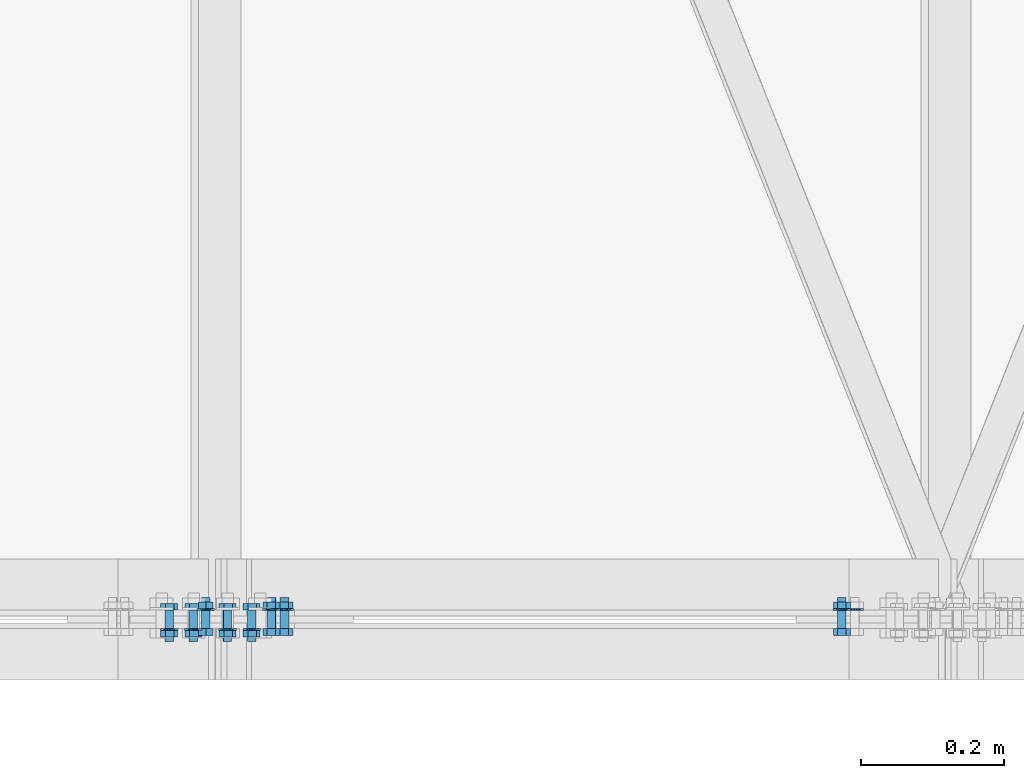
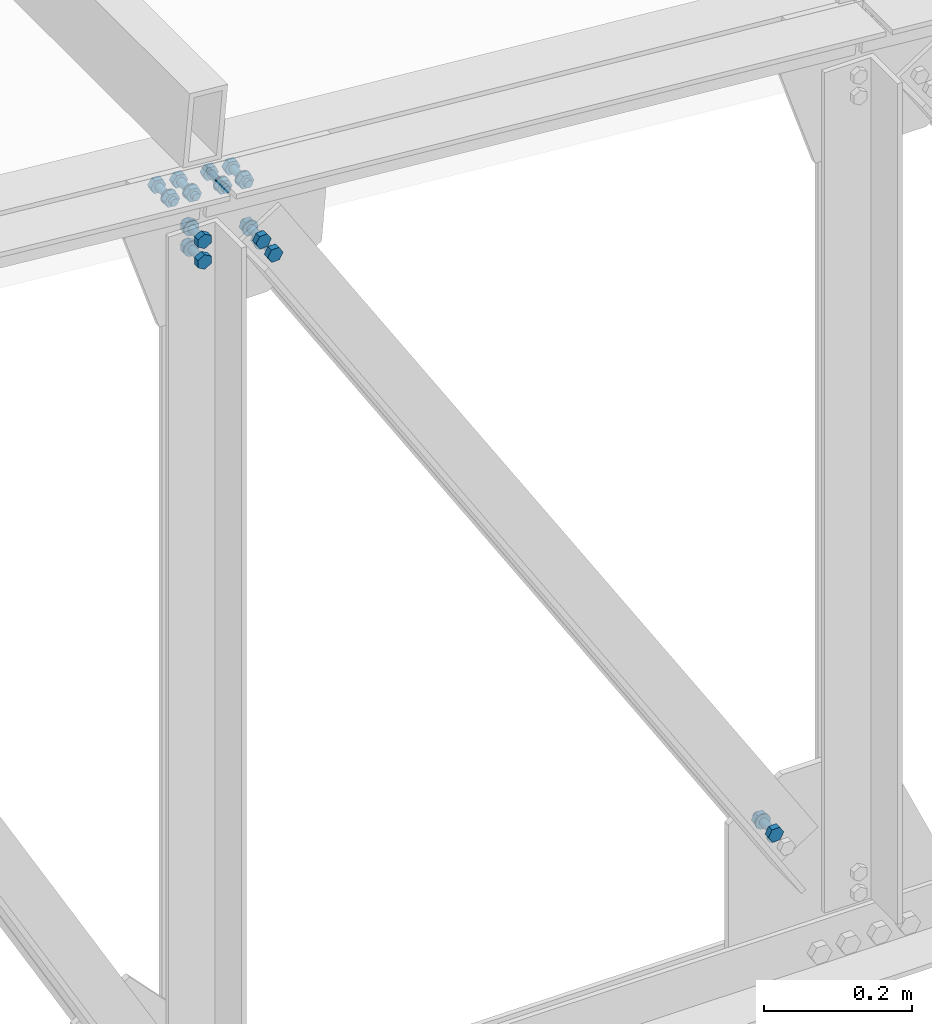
# One storey, part 69 of 251: 37 mechanical fasteners.
"""IFC4 building model written with IfcOpenShell, lengths in metres."""

from ifc_helpers import new_model, si_unit, frame, origin_with_axes, place, context, project, spatial, polyline, outline, extrude, type_object, element, save


model = new_model("IFC4")

# Units and contexts
model_context = context("Model", 3, precision=1e-05, world=origin_with_axes())
ifc_project = project(units=[si_unit("LENGTHUNIT", "METRE"), si_unit("AREAUNIT", "SQUARE_METRE"), si_unit("VOLUMEUNIT", "CUBIC_METRE"), si_unit("MASSUNIT", "GRAM", prefix="KILO"), si_unit("TIMEUNIT", "SECOND"), si_unit("PLANEANGLEUNIT", "RADIAN"), si_unit("SOLIDANGLEUNIT", "STERADIAN"), si_unit("THERMODYNAMICTEMPERATUREUNIT", "DEGREE_CELSIUS")], contexts=[model_context])

# Site, building, storey
placement_1 = place(None, origin_with_axes())
site = spatial("IfcSite", under=ifc_project, at=placement_1, Name="Italia", CompositionType="ELEMENT")
building = spatial("IfcBuilding", under=site, at=placement_1, Name="Deposito", CompositionType="ELEMENT")
storey = spatial("IfcBuildingStorey", under=building, at=placement_1, Name="Storey 0", CompositionType="ELEMENT", Elevation=0.0)

# Mechanical fasteners
mechanical_fastener_type_1 = type_object("IfcMechanicalFastenerType", Name="Reticolare 2", PredefinedType="BOLT")
placement_2 = place(placement_1, origin_with_axes())
mechanical_fastener_1_placement = place(placement_2, origin_with_axes())
element("IfcMechanicalFastener", 1, at=mechanical_fastener_1_placement, inside=storey, type_object=mechanical_fastener_type_1, Name="Reticolare 2", NominalDiameter=0.024, context=model_context, shape_type="SweptSolid", body=[
    extrude(outline(polyline([(0.0, 0.0), (-0.000409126, -0.00310564), (-0.00160789, -0.00600004), (-0.00351524, -0.00848532), (-0.00600052, -0.0103922), (-0.00889397, -0.011591), (-0.0120001, -0.0120001), (-0.0151062, -0.011591), (-0.0179996, -0.0103922), (-0.0204849, -0.00848532), (-0.0223923, -0.00600004), (-0.023591, -0.00310564), (-0.0240002, 0.0), (-0.023591, 0.00310564), (-0.0223923, 0.00600004), (-0.0204849, 0.00848532), (-0.0179996, 0.0103922), (-0.0151062, 0.011591), (-0.0120001, 0.0120001), (-0.00889397, 0.011591), (-0.00600052, 0.0103922), (-0.00351524, 0.00848532), (-0.00160789, 0.00600004), (-0.000409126, 0.00310564), (0.0, 0.0)])), frame((13.9145, 0.015, 5.20248), z_axis=(0.0, -1.0, 0.0), x_axis=(1.0, 0.0, 0.0)), (0.0, 0.0, 1.0), 0.002),
])
mechanical_fastener_type_2 = type_object("IfcMechanicalFastenerType", Name="Reticolare 2", PredefinedType="BOLT")
mechanical_fastener_2_placement = place(placement_2, origin_with_axes())
element("IfcMechanicalFastener", 2, at=mechanical_fastener_2_placement, inside=storey, type_object=mechanical_fastener_type_2, Name="Reticolare 2", NominalDiameter=0.0119994, context=model_context, shape_type="SweptSolid", body=[
    extrude(outline(polyline([(0.0, 0.0), (-0.00643444, 0.010129), (-0.000879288, 0.0207663), (0.0111094, 0.0212741), (0.0175438, 0.0111451), (0.0119896, 0.000508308), (0.0, 0.0)])), frame((13.8787, -0.013, 5.22054), z_axis=(0.0, -1.0, 0.0), x_axis=(1.0, 0.0, 0.0)), (0.0, 0.0, 1.0), 0.0096),
])
mechanical_fastener_type_3 = type_object("IfcMechanicalFastenerType", Name="Reticolare 2", PredefinedType="BOLT")
mechanical_fastener_3_placement = place(placement_2, origin_with_axes())
element("IfcMechanicalFastener", 3, at=mechanical_fastener_3_placement, inside=storey, type_object=mechanical_fastener_type_3, Name="Reticolare 2", NominalDiameter=0.012, context=model_context, shape_type="SweptSolid", body=[
    extrude(outline(polyline([(0.0, 0.0), (-0.000204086, -0.00155306), (-0.000802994, -0.00299978), (-0.00175667, -0.00424242), (-0.00299931, -0.00519609), (-0.00444698, -0.00579548), (-0.00599957, -0.00600004), (-0.00755215, -0.00579548), (-0.00899982, -0.00519609), (-0.0102425, -0.00424242), (-0.0111961, -0.00299978), (-0.011795, -0.00155306), (-0.0119991, 0.0), (-0.011795, 0.00155306), (-0.0111961, 0.00299978), (-0.0102425, 0.00424242), (-0.00899982, 0.00519609), (-0.00755215, 0.00579548), (-0.00599957, 0.00600004), (-0.00444698, 0.00579548), (-0.00299931, 0.00519609), (-0.00175667, 0.00424242), (-0.000802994, 0.00299978), (-0.000204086, 0.00155306), (0.0, 0.0)])), frame((13.8903, 0.031, 5.23117), z_axis=(0.0, -1.0, 0.0), x_axis=(1.0, 0.0, 0.0)), (0.0, 0.0, 1.0), 0.044),
])
mechanical_fastener_type_4 = type_object("IfcMechanicalFastenerType", Name="Reticolare 2", PredefinedType="BOLT")
mechanical_fastener_4_placement = place(placement_2, origin_with_axes())
element("IfcMechanicalFastener", 4, at=mechanical_fastener_4_placement, inside=storey, type_object=mechanical_fastener_type_4, Name="Reticolare 2", NominalDiameter=0.0119994, context=model_context, shape_type="SweptSolid", body=[
    extrude(outline(polyline([(0.0, 0.0), (-0.00643444, 0.010129), (-0.000879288, 0.0207663), (0.0111094, 0.0212741), (0.0175438, 0.0111451), (0.0119896, 0.000508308), (0.0, 0.0)])), frame((13.8787, 0.0246, 5.22054), z_axis=(0.0, -1.0, 0.0), x_axis=(1.0, 0.0, 0.0)), (0.0, 0.0, 1.0), 0.0096),
])
mechanical_fastener_type_5 = type_object("IfcMechanicalFastenerType", Name="Reticolare 2", PredefinedType="BOLT")
mechanical_fastener_5_placement = place(placement_2, origin_with_axes())
element("IfcMechanicalFastener", 5, at=mechanical_fastener_5_placement, inside=storey, type_object=mechanical_fastener_type_5, Name="Reticolare 2", NominalDiameter=0.024, context=model_context, shape_type="SweptSolid", body=[
    extrude(outline(polyline([(0.0, 0.0), (-0.000409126, -0.00310564), (-0.00160789, -0.00600004), (-0.00351524, -0.00848532), (-0.00600052, -0.0103922), (-0.00889397, -0.011591), (-0.0120001, -0.0120001), (-0.0151062, -0.011591), (-0.0179996, -0.0103922), (-0.0204849, -0.00848532), (-0.0223923, -0.00600004), (-0.023591, -0.00310564), (-0.0240002, 0.0), (-0.023591, 0.00310564), (-0.0223923, 0.00600004), (-0.0204849, 0.00848532), (-0.0179996, 0.0103922), (-0.0151062, 0.011591), (-0.0120001, 0.0120001), (-0.00889397, 0.011591), (-0.00600052, 0.0103922), (-0.00351524, 0.00848532), (-0.00160789, 0.00600004), (-0.000409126, 0.00310564), (0.0, 0.0)])), frame((13.8963, 0.015, 5.23117), z_axis=(0.0, -1.0, 0.0), x_axis=(1.0, 0.0, 0.0)), (0.0, 0.0, 1.0), 0.002),
])
mechanical_fastener_type_6 = type_object("IfcMechanicalFastenerType", Name="Reticolare 2", PredefinedType="BOLT")
mechanical_fastener_6_placement = place(placement_2, origin_with_axes())
element("IfcMechanicalFastener", 6, at=mechanical_fastener_6_placement, inside=storey, type_object=mechanical_fastener_type_6, Name="Reticolare 2", NominalDiameter=0.0119996, context=model_context, shape_type="SweptSolid", body=[
    extrude(outline(polyline([(0.0, 0.0), (0.0119572, 0.001019), (0.0188179, -0.00882626), (0.0137215, -0.0196905), (0.00176525, -0.0207095), (-0.00509548, -0.0108643), (0.0, 0.0)])), frame((13.0302, 0.013, 6.61092), z_axis=(0.0, 1.0, 0.0), x_axis=(-1.0, 0.0, 0.0)), (0.0, 0.0, 1.0), 0.0096),
])
mechanical_fastener_type_7 = type_object("IfcMechanicalFastenerType", Name="Reticolare 2", PredefinedType="BOLT")
mechanical_fastener_7_placement = place(placement_2, origin_with_axes())
element("IfcMechanicalFastener", 7, at=mechanical_fastener_7_placement, inside=storey, type_object=mechanical_fastener_type_7, Name="Reticolare 2", NominalDiameter=0.012, context=model_context, shape_type="SweptSolid", body=[
    extrude(outline(polyline([(0.0, 0.0), (-0.000204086, -0.00155306), (-0.000802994, -0.00299978), (-0.00175667, -0.00424242), (-0.00299931, -0.00519609), (-0.00444698, -0.00579548), (-0.00599957, -0.00600004), (-0.00755215, -0.00579548), (-0.00899982, -0.00519609), (-0.0102425, -0.00424242), (-0.0111961, -0.00299978), (-0.011795, -0.00155306), (-0.0119991, 0.0), (-0.011795, 0.00155306), (-0.0111961, 0.00299978), (-0.0102425, 0.00424242), (-0.00899982, 0.00519609), (-0.00755215, 0.00579548), (-0.00599957, 0.00600004), (-0.00444698, 0.00579548), (-0.00299931, 0.00519609), (-0.00175667, 0.00424242), (-0.000802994, 0.00299978), (-0.000204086, 0.00155306), (0.0, 0.0)])), frame((13.0173, -0.031, 6.60108), z_axis=(0.0, 1.0, 0.0), x_axis=(-1.0, 0.0, 0.0)), (0.0, 0.0, 1.0), 0.044),
])
mechanical_fastener_type_8 = type_object("IfcMechanicalFastenerType", Name="Reticolare 2", PredefinedType="BOLT")
mechanical_fastener_8_placement = place(placement_2, origin_with_axes())
element("IfcMechanicalFastener", 8, at=mechanical_fastener_8_placement, inside=storey, type_object=mechanical_fastener_type_8, Name="Reticolare 2", NominalDiameter=0.0119996, context=model_context, shape_type="SweptSolid", body=[
    extrude(outline(polyline([(0.0, 0.0), (0.0119572, 0.001019), (0.0188179, -0.00882626), (0.0137215, -0.0196905), (0.00176525, -0.0207095), (-0.00509548, -0.0108643), (0.0, 0.0)])), frame((13.0302, -0.0246, 6.61092), z_axis=(0.0, 1.0, 0.0), x_axis=(-1.0, 0.0, 0.0)), (0.0, 0.0, 1.0), 0.0096),
])
mechanical_fastener_type_9 = type_object("IfcMechanicalFastenerType", Name="Reticolare 2", PredefinedType="BOLT")
mechanical_fastener_9_placement = place(placement_2, origin_with_axes())
element("IfcMechanicalFastener", 9, at=mechanical_fastener_9_placement, inside=storey, type_object=mechanical_fastener_type_9, Name="Reticolare 2", NominalDiameter=0.024, context=model_context, shape_type="SweptSolid", body=[
    extrude(outline(polyline([(0.0, 0.0), (-0.000409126, -0.00310564), (-0.00160789, -0.00600004), (-0.00351524, -0.00848532), (-0.00600052, -0.0103922), (-0.00889397, -0.011591), (-0.0120001, -0.0120001), (-0.0151062, -0.011591), (-0.0179996, -0.0103922), (-0.0204849, -0.00848532), (-0.0223923, -0.00600004), (-0.023591, -0.00310564), (-0.0240002, 0.0), (-0.023591, 0.00310564), (-0.0223923, 0.00600004), (-0.0204849, 0.00848532), (-0.0179996, 0.0103922), (-0.0151062, 0.011591), (-0.0120001, 0.0120001), (-0.00889397, 0.011591), (-0.00600052, 0.0103922), (-0.00351524, 0.00848532), (-0.00160789, 0.00600004), (-0.000409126, 0.00310564), (0.0, 0.0)])), frame((13.0113, -0.015, 6.60108), z_axis=(0.0, 1.0, 0.0), x_axis=(-1.0, 0.0, 0.0)), (0.0, 0.0, 1.0), 0.002),
])
mechanical_fastener_type_10 = type_object("IfcMechanicalFastenerType", Name="Reticolare 2", PredefinedType="BOLT")
mechanical_fastener_10_placement = place(placement_2, origin_with_axes())
element("IfcMechanicalFastener", 10, at=mechanical_fastener_10_placement, inside=storey, type_object=mechanical_fastener_type_10, Name="Reticolare 2", NominalDiameter=0.0119996, context=model_context, shape_type="SweptSolid", body=[
    extrude(outline(polyline([(0.0, 0.0), (0.0119572, 0.001019), (0.0188179, -0.00882626), (0.0137215, -0.0196905), (0.00176525, -0.0207095), (-0.00509548, -0.0108643), (0.0, 0.0)])), frame((13.0641, 0.013, 6.60803), z_axis=(0.0, 1.0, 0.0), x_axis=(-1.0, 0.0, 0.0)), (0.0, 0.0, 1.0), 0.0096),
])
mechanical_fastener_type_11 = type_object("IfcMechanicalFastenerType", Name="Reticolare 2", PredefinedType="BOLT")
mechanical_fastener_11_placement = place(placement_2, origin_with_axes())
element("IfcMechanicalFastener", 11, at=mechanical_fastener_11_placement, inside=storey, type_object=mechanical_fastener_type_11, Name="Reticolare 2", NominalDiameter=0.012, context=model_context, shape_type="SweptSolid", body=[
    extrude(outline(polyline([(0.0, 0.0), (-0.000204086, -0.00155306), (-0.000802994, -0.00299978), (-0.00175667, -0.00424242), (-0.00299931, -0.00519609), (-0.00444698, -0.00579548), (-0.00599957, -0.00600004), (-0.00755215, -0.00579548), (-0.00899982, -0.00519609), (-0.0102425, -0.00424242), (-0.0111961, -0.00299978), (-0.011795, -0.00155306), (-0.0119991, 0.0), (-0.011795, 0.00155306), (-0.0111961, 0.00299978), (-0.0102425, 0.00424242), (-0.00899982, 0.00519609), (-0.00755215, 0.00579548), (-0.00599957, 0.00600004), (-0.00444698, 0.00579548), (-0.00299931, 0.00519609), (-0.00175667, 0.00424242), (-0.000802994, 0.00299978), (-0.000204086, 0.00155306), (0.0, 0.0)])), frame((13.0512, -0.031, 6.59819), z_axis=(0.0, 1.0, 0.0), x_axis=(-1.0, 0.0, 0.0)), (0.0, 0.0, 1.0), 0.044),
])
mechanical_fastener_type_12 = type_object("IfcMechanicalFastenerType", Name="Reticolare 2", PredefinedType="BOLT")
mechanical_fastener_12_placement = place(placement_2, origin_with_axes())
element("IfcMechanicalFastener", 12, at=mechanical_fastener_12_placement, inside=storey, type_object=mechanical_fastener_type_12, Name="Reticolare 2", NominalDiameter=0.0119996, context=model_context, shape_type="SweptSolid", body=[
    extrude(outline(polyline([(0.0, 0.0), (0.0119572, 0.001019), (0.0188179, -0.00882626), (0.0137215, -0.0196905), (0.00176525, -0.0207095), (-0.00509548, -0.0108643), (0.0, 0.0)])), frame((13.0641, -0.0246, 6.60803), z_axis=(0.0, 1.0, 0.0), x_axis=(-1.0, 0.0, 0.0)), (0.0, 0.0, 1.0), 0.0096),
])
mechanical_fastener_type_13 = type_object("IfcMechanicalFastenerType", Name="Reticolare 2", PredefinedType="BOLT")
mechanical_fastener_13_placement = place(placement_2, origin_with_axes())
element("IfcMechanicalFastener", 13, at=mechanical_fastener_13_placement, inside=storey, type_object=mechanical_fastener_type_13, Name="Reticolare 2", NominalDiameter=0.024, context=model_context, shape_type="SweptSolid", body=[
    extrude(outline(polyline([(0.0, 0.0), (-0.000409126, -0.00310564), (-0.00160789, -0.00600004), (-0.00351524, -0.00848532), (-0.00600052, -0.0103922), (-0.00889397, -0.011591), (-0.0120001, -0.0120001), (-0.0151062, -0.011591), (-0.0179996, -0.0103922), (-0.0204849, -0.00848532), (-0.0223923, -0.00600004), (-0.023591, -0.00310564), (-0.0240002, 0.0), (-0.023591, 0.00310564), (-0.0223923, 0.00600004), (-0.0204849, 0.00848532), (-0.0179996, 0.0103922), (-0.0151062, 0.011591), (-0.0120001, 0.0120001), (-0.00889397, 0.011591), (-0.00600052, 0.0103922), (-0.00351524, 0.00848532), (-0.00160789, 0.00600004), (-0.000409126, 0.00310564), (0.0, 0.0)])), frame((13.0452, -0.015, 6.59819), z_axis=(0.0, 1.0, 0.0), x_axis=(-1.0, 0.0, 0.0)), (0.0, 0.0, 1.0), 0.002),
])
mechanical_fastener_type_14 = type_object("IfcMechanicalFastenerType", Name="Reticolare 2", PredefinedType="BOLT")
mechanical_fastener_14_placement = place(placement_2, origin_with_axes())
element("IfcMechanicalFastener", 14, at=mechanical_fastener_14_placement, inside=storey, type_object=mechanical_fastener_type_14, Name="Reticolare 2", NominalDiameter=0.0119996, context=model_context, shape_type="SweptSolid", body=[
    extrude(outline(polyline([(0.0, 0.0), (0.0119524, 0.00107431), (0.018858, -0.00873947), (0.013813, -0.0196271), (0.00186157, -0.0207014), (-0.00504494, -0.0108881), (0.0, 0.0)])), frame((12.9824, 0.013, 6.61508), z_axis=(0.0, 1.0, 0.0), x_axis=(-1.0, 0.0, 0.0)), (0.0, 0.0, 1.0), 0.0096),
])
mechanical_fastener_type_15 = type_object("IfcMechanicalFastenerType", Name="Reticolare 2", PredefinedType="BOLT")
mechanical_fastener_15_placement = place(placement_2, origin_with_axes())
element("IfcMechanicalFastener", 15, at=mechanical_fastener_15_placement, inside=storey, type_object=mechanical_fastener_type_15, Name="Reticolare 2", NominalDiameter=0.012, context=model_context, shape_type="SweptSolid", body=[
    extrude(outline(polyline([(0.0, 0.0), (-0.000204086, -0.00155306), (-0.000802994, -0.00299978), (-0.00175667, -0.00424242), (-0.00299931, -0.00519609), (-0.00444698, -0.00579548), (-0.00599957, -0.00600004), (-0.00755215, -0.00579548), (-0.00899982, -0.00519609), (-0.0102425, -0.00424242), (-0.0111961, -0.00299978), (-0.011795, -0.00155306), (-0.0119991, 0.0), (-0.011795, 0.00155306), (-0.0111961, 0.00299978), (-0.0102425, 0.00424242), (-0.00899982, 0.00519609), (-0.00755215, 0.00579548), (-0.00599957, 0.00600004), (-0.00444698, 0.00579548), (-0.00299931, 0.00519609), (-0.00175667, 0.00424242), (-0.000802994, 0.00299978), (-0.000204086, 0.00155306), (0.0, 0.0)])), frame((12.9694, -0.031, 6.60527), z_axis=(0.0, 1.0, 0.0), x_axis=(-1.0, 0.0, 0.0)), (0.0, 0.0, 1.0), 0.044),
])
mechanical_fastener_type_16 = type_object("IfcMechanicalFastenerType", Name="Reticolare 2", PredefinedType="BOLT")
mechanical_fastener_16_placement = place(placement_2, origin_with_axes())
element("IfcMechanicalFastener", 16, at=mechanical_fastener_16_placement, inside=storey, type_object=mechanical_fastener_type_16, Name="Reticolare 2", NominalDiameter=0.0119996, context=model_context, shape_type="SweptSolid", body=[
    extrude(outline(polyline([(0.0, 0.0), (0.0119524, 0.00107431), (0.018858, -0.00873947), (0.013813, -0.0196271), (0.00186157, -0.0207014), (-0.00504494, -0.0108881), (0.0, 0.0)])), frame((12.9824, -0.0246, 6.61508), z_axis=(0.0, 1.0, 0.0), x_axis=(-1.0, 0.0, 0.0)), (0.0, 0.0, 1.0), 0.0096),
])
mechanical_fastener_type_17 = type_object("IfcMechanicalFastenerType", Name="Reticolare 2", PredefinedType="BOLT")
mechanical_fastener_17_placement = place(placement_2, origin_with_axes())
element("IfcMechanicalFastener", 17, at=mechanical_fastener_17_placement, inside=storey, type_object=mechanical_fastener_type_17, Name="Reticolare 2", NominalDiameter=0.024, context=model_context, shape_type="SweptSolid", body=[
    extrude(outline(polyline([(0.0, 0.0), (-0.000409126, -0.00310564), (-0.00160789, -0.00600004), (-0.00351524, -0.00848532), (-0.00600052, -0.0103922), (-0.00889397, -0.011591), (-0.0120001, -0.0120001), (-0.0151062, -0.011591), (-0.0179996, -0.0103922), (-0.0204849, -0.00848532), (-0.0223923, -0.00600004), (-0.023591, -0.00310564), (-0.0240002, 0.0), (-0.023591, 0.00310564), (-0.0223923, 0.00600004), (-0.0204849, 0.00848532), (-0.0179996, 0.0103922), (-0.0151062, 0.011591), (-0.0120001, 0.0120001), (-0.00889397, 0.011591), (-0.00600052, 0.0103922), (-0.00351524, 0.00848532), (-0.00160789, 0.00600004), (-0.000409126, 0.00310564), (0.0, 0.0)])), frame((12.9634, -0.015, 6.60527), z_axis=(0.0, 1.0, 0.0), x_axis=(-1.0, 0.0, 0.0)), (0.0, 0.0, 1.0), 0.002),
])
mechanical_fastener_type_18 = type_object("IfcMechanicalFastenerType", Name="Reticolare 2", PredefinedType="BOLT")
mechanical_fastener_18_placement = place(placement_2, origin_with_axes())
element("IfcMechanicalFastener", 18, at=mechanical_fastener_18_placement, inside=storey, type_object=mechanical_fastener_type_18, Name="Reticolare 2", NominalDiameter=0.0119996, context=model_context, shape_type="SweptSolid", body=[
    extrude(outline(polyline([(0.0, 0.0), (0.0119514, 0.00107479), (0.018858, -0.00873899), (0.0138121, -0.0196266), (0.00186062, -0.0207009), (-0.00504589, -0.0108876), (0.0, 0.0)])), frame((12.9485, 0.013, 6.61813), z_axis=(0.0, 1.0, 0.0), x_axis=(-1.0, 0.0, 0.0)), (0.0, 0.0, 1.0), 0.0096),
])
mechanical_fastener_type_19 = type_object("IfcMechanicalFastenerType", Name="Reticolare 2", PredefinedType="BOLT")
mechanical_fastener_19_placement = place(placement_2, origin_with_axes())
element("IfcMechanicalFastener", 19, at=mechanical_fastener_19_placement, inside=storey, type_object=mechanical_fastener_type_19, Name="Reticolare 2", NominalDiameter=0.012, context=model_context, shape_type="SweptSolid", body=[
    extrude(outline(polyline([(0.0, 0.0), (-0.000204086, -0.00155306), (-0.000802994, -0.00299978), (-0.00175667, -0.00424242), (-0.00299931, -0.00519609), (-0.00444698, -0.00579548), (-0.00599957, -0.00600004), (-0.00755215, -0.00579548), (-0.00899982, -0.00519609), (-0.0102425, -0.00424242), (-0.0111961, -0.00299978), (-0.011795, -0.00155306), (-0.0119991, 0.0), (-0.011795, 0.00155306), (-0.0111961, 0.00299978), (-0.0102425, 0.00424242), (-0.00899982, 0.00519609), (-0.00755215, 0.00579548), (-0.00599957, 0.00600004), (-0.00444698, 0.00579548), (-0.00299931, 0.00519609), (-0.00175667, 0.00424242), (-0.000802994, 0.00299978), (-0.000204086, 0.00155306), (0.0, 0.0)])), frame((12.9356, -0.031, 6.60831), z_axis=(0.0, 1.0, 0.0), x_axis=(-1.0, 0.0, 0.0)), (0.0, 0.0, 1.0), 0.044),
])
mechanical_fastener_type_20 = type_object("IfcMechanicalFastenerType", Name="Reticolare 2", PredefinedType="BOLT")
mechanical_fastener_20_placement = place(placement_2, origin_with_axes())
element("IfcMechanicalFastener", 20, at=mechanical_fastener_20_placement, inside=storey, type_object=mechanical_fastener_type_20, Name="Reticolare 2", NominalDiameter=0.0119996, context=model_context, shape_type="SweptSolid", body=[
    extrude(outline(polyline([(0.0, 0.0), (0.0119514, 0.00107479), (0.018858, -0.00873899), (0.0138121, -0.0196266), (0.00186062, -0.0207009), (-0.00504589, -0.0108876), (0.0, 0.0)])), frame((12.9485, -0.0246, 6.61813), z_axis=(0.0, 1.0, 0.0), x_axis=(-1.0, 0.0, 0.0)), (0.0, 0.0, 1.0), 0.0096),
])
mechanical_fastener_type_21 = type_object("IfcMechanicalFastenerType", Name="Reticolare 2", PredefinedType="BOLT")
mechanical_fastener_21_placement = place(placement_2, origin_with_axes())
element("IfcMechanicalFastener", 21, at=mechanical_fastener_21_placement, inside=storey, type_object=mechanical_fastener_type_21, Name="Reticolare 2", NominalDiameter=0.024, context=model_context, shape_type="SweptSolid", body=[
    extrude(outline(polyline([(0.0, 0.0), (-0.000409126, -0.00310564), (-0.00160789, -0.00600004), (-0.00351524, -0.00848532), (-0.00600052, -0.0103922), (-0.00889397, -0.011591), (-0.0120001, -0.0120001), (-0.0151062, -0.011591), (-0.0179996, -0.0103922), (-0.0204849, -0.00848532), (-0.0223923, -0.00600004), (-0.023591, -0.00310564), (-0.0240002, 0.0), (-0.023591, 0.00310564), (-0.0223923, 0.00600004), (-0.0204849, 0.00848532), (-0.0179996, 0.0103922), (-0.0151062, 0.011591), (-0.0120001, 0.0120001), (-0.00889397, 0.011591), (-0.00600052, 0.0103922), (-0.00351524, 0.00848532), (-0.00160789, 0.00600004), (-0.000409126, 0.00310564), (0.0, 0.0)])), frame((12.9296, -0.015, 6.60831), z_axis=(0.0, 1.0, 0.0), x_axis=(-1.0, 0.0, 0.0)), (0.0, 0.0, 1.0), 0.002),
])
mechanical_fastener_type_22 = type_object("IfcMechanicalFastenerType", Name="Reticolare 2", PredefinedType="BOLT")
mechanical_fastener_22_placement = place(placement_2, origin_with_axes())
element("IfcMechanicalFastener", 22, at=mechanical_fastener_22_placement, inside=storey, type_object=mechanical_fastener_type_22, Name="Reticolare 2", NominalDiameter=0.0119999, context=model_context, shape_type="SweptSolid", body=[
    extrude(outline(polyline([(0.0, 0.0), (0.0, -0.0120001), (-0.0103922, -0.0180001), (-0.0207844, -0.0120001), (-0.0207844, 0.0), (-0.0103922, 0.00600004), (0.0, 0.0)])), frame((13.0034, -0.013, 6.52739), z_axis=(0.0, -1.0, 0.0), x_axis=(1.0, 0.0, 0.0)), (0.0, 0.0, 1.0), 0.0096),
])
mechanical_fastener_type_23 = type_object("IfcMechanicalFastenerType", Name="Reticolare 2", PredefinedType="BOLT")
mechanical_fastener_23_placement = place(placement_2, origin_with_axes())
element("IfcMechanicalFastener", 23, at=mechanical_fastener_23_placement, inside=storey, type_object=mechanical_fastener_type_23, Name="Reticolare 2", NominalDiameter=0.012, context=model_context, shape_type="SweptSolid", body=[
    extrude(outline(polyline([(0.0, 0.0), (-0.000204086, -0.00155306), (-0.000802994, -0.00299978), (-0.00175667, -0.00424242), (-0.00299931, -0.00519609), (-0.00444698, -0.00579548), (-0.00599957, -0.00600004), (-0.00755215, -0.00579548), (-0.00899982, -0.00519609), (-0.0102425, -0.00424242), (-0.0111961, -0.00299978), (-0.011795, -0.00155306), (-0.0119991, 0.0), (-0.011795, 0.00155306), (-0.0111961, 0.00299978), (-0.0102425, 0.00424242), (-0.00899982, 0.00519609), (-0.00755215, 0.00579548), (-0.00599957, 0.00600004), (-0.00444698, 0.00579548), (-0.00299931, 0.00519609), (-0.00175667, 0.00424242), (-0.000802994, 0.00299978), (-0.000204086, 0.00155306), (0.0, 0.0)])), frame((12.999, 0.031, 6.52139), z_axis=(0.0, -1.0, 0.0), x_axis=(1.0, 0.0, 0.0)), (0.0, 0.0, 1.0), 0.044),
])
mechanical_fastener_type_24 = type_object("IfcMechanicalFastenerType", Name="Reticolare 2", PredefinedType="BOLT")
mechanical_fastener_24_placement = place(placement_2, origin_with_axes())
element("IfcMechanicalFastener", 24, at=mechanical_fastener_24_placement, inside=storey, type_object=mechanical_fastener_type_24, Name="Reticolare 2", NominalDiameter=0.0119999, context=model_context, shape_type="SweptSolid", body=[
    extrude(outline(polyline([(0.0, 0.0), (0.0, -0.0120001), (-0.0103922, -0.0180001), (-0.0207844, -0.0120001), (-0.0207844, 0.0), (-0.0103922, 0.00600004), (0.0, 0.0)])), frame((13.0034, 0.0246, 6.52739), z_axis=(0.0, -1.0, 0.0), x_axis=(1.0, 0.0, 0.0)), (0.0, 0.0, 1.0), 0.0096),
])
mechanical_fastener_type_25 = type_object("IfcMechanicalFastenerType", Name="Reticolare 2", PredefinedType="BOLT")
mechanical_fastener_25_placement = place(placement_2, origin_with_axes())
element("IfcMechanicalFastener", 25, at=mechanical_fastener_25_placement, inside=storey, type_object=mechanical_fastener_type_25, Name="Reticolare 2", NominalDiameter=0.024, context=model_context, shape_type="SweptSolid", body=[
    extrude(outline(polyline([(0.0, 0.0), (-0.000409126, -0.00310564), (-0.00160789, -0.00600004), (-0.00351524, -0.00848532), (-0.00600052, -0.0103922), (-0.00889397, -0.011591), (-0.0120001, -0.0120001), (-0.0151062, -0.011591), (-0.0179996, -0.0103922), (-0.0204849, -0.00848532), (-0.0223923, -0.00600004), (-0.023591, -0.00310564), (-0.0240002, 0.0), (-0.023591, 0.00310564), (-0.0223923, 0.00600004), (-0.0204849, 0.00848532), (-0.0179996, 0.0103922), (-0.0151062, 0.011591), (-0.0120001, 0.0120001), (-0.00889397, 0.011591), (-0.00600052, 0.0103922), (-0.00351524, 0.00848532), (-0.00160789, 0.00600004), (-0.000409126, 0.00310564), (0.0, 0.0)])), frame((13.005, 0.015, 6.52139), z_axis=(0.0, -1.0, 0.0), x_axis=(1.0, 0.0, 0.0)), (0.0, 0.0, 1.0), 0.002),
])
mechanical_fastener_type_26 = type_object("IfcMechanicalFastenerType", Name="Reticolare 2", PredefinedType="BOLT")
mechanical_fastener_26_placement = place(placement_2, origin_with_axes())
element("IfcMechanicalFastener", 26, at=mechanical_fastener_26_placement, inside=storey, type_object=mechanical_fastener_type_26, Name="Reticolare 2", NominalDiameter=0.0119999, context=model_context, shape_type="SweptSolid", body=[
    extrude(outline(polyline([(0.0, 0.0), (0.0, -0.0120001), (-0.0103922, -0.0180001), (-0.0207844, -0.0120001), (-0.0207844, 0.0), (-0.0103922, 0.00600004), (0.0, 0.0)])), frame((13.0034, -0.013, 6.49339), z_axis=(0.0, -1.0, 0.0), x_axis=(1.0, 0.0, 0.0)), (0.0, 0.0, 1.0), 0.0096),
])
mechanical_fastener_type_27 = type_object("IfcMechanicalFastenerType", Name="Reticolare 2", PredefinedType="BOLT")
mechanical_fastener_27_placement = place(placement_2, origin_with_axes())
element("IfcMechanicalFastener", 27, at=mechanical_fastener_27_placement, inside=storey, type_object=mechanical_fastener_type_27, Name="Reticolare 2", NominalDiameter=0.012, context=model_context, shape_type="SweptSolid", body=[
    extrude(outline(polyline([(0.0, 0.0), (-0.000204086, -0.00155306), (-0.000802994, -0.00299978), (-0.00175667, -0.00424242), (-0.00299931, -0.00519609), (-0.00444698, -0.00579548), (-0.00599957, -0.00600004), (-0.00755215, -0.00579548), (-0.00899982, -0.00519609), (-0.0102425, -0.00424242), (-0.0111961, -0.00299978), (-0.011795, -0.00155306), (-0.0119991, 0.0), (-0.011795, 0.00155306), (-0.0111961, 0.00299978), (-0.0102425, 0.00424242), (-0.00899982, 0.00519609), (-0.00755215, 0.00579548), (-0.00599957, 0.00600004), (-0.00444698, 0.00579548), (-0.00299931, 0.00519609), (-0.00175667, 0.00424242), (-0.000802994, 0.00299978), (-0.000204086, 0.00155306), (0.0, 0.0)])), frame((12.999, 0.031, 6.48739), z_axis=(0.0, -1.0, 0.0), x_axis=(1.0, 0.0, 0.0)), (0.0, 0.0, 1.0), 0.044),
])
mechanical_fastener_type_28 = type_object("IfcMechanicalFastenerType", Name="Reticolare 2", PredefinedType="BOLT")
mechanical_fastener_28_placement = place(placement_2, origin_with_axes())
element("IfcMechanicalFastener", 28, at=mechanical_fastener_28_placement, inside=storey, type_object=mechanical_fastener_type_28, Name="Reticolare 2", NominalDiameter=0.0119999, context=model_context, shape_type="SweptSolid", body=[
    extrude(outline(polyline([(0.0, 0.0), (0.0, -0.0120001), (-0.0103922, -0.0180001), (-0.0207844, -0.0120001), (-0.0207844, 0.0), (-0.0103922, 0.00600004), (0.0, 0.0)])), frame((13.0034, 0.0246, 6.49339), z_axis=(0.0, -1.0, 0.0), x_axis=(1.0, 0.0, 0.0)), (0.0, 0.0, 1.0), 0.0096),
])
mechanical_fastener_type_29 = type_object("IfcMechanicalFastenerType", Name="Reticolare 2", PredefinedType="BOLT")
mechanical_fastener_29_placement = place(placement_2, origin_with_axes())
element("IfcMechanicalFastener", 29, at=mechanical_fastener_29_placement, inside=storey, type_object=mechanical_fastener_type_29, Name="Reticolare 2", NominalDiameter=0.024, context=model_context, shape_type="SweptSolid", body=[
    extrude(outline(polyline([(0.0, 0.0), (-0.000409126, -0.00310564), (-0.00160789, -0.00600004), (-0.00351524, -0.00848532), (-0.00600052, -0.0103922), (-0.00889397, -0.011591), (-0.0120001, -0.0120001), (-0.0151062, -0.011591), (-0.0179996, -0.0103922), (-0.0204849, -0.00848532), (-0.0223923, -0.00600004), (-0.023591, -0.00310564), (-0.0240002, 0.0), (-0.023591, 0.00310564), (-0.0223923, 0.00600004), (-0.0204849, 0.00848532), (-0.0179996, 0.0103922), (-0.0151062, 0.011591), (-0.0120001, 0.0120001), (-0.00889397, 0.011591), (-0.00600052, 0.0103922), (-0.00351524, 0.00848532), (-0.00160789, 0.00600004), (-0.000409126, 0.00310564), (0.0, 0.0)])), frame((13.005, 0.015, 6.48739), z_axis=(0.0, -1.0, 0.0), x_axis=(1.0, 0.0, 0.0)), (0.0, 0.0, 1.0), 0.002),
])
mechanical_fastener_type_30 = type_object("IfcMechanicalFastenerType", Name="Reticolare 2", PredefinedType="BOLT")
mechanical_fastener_30_placement = place(placement_2, origin_with_axes())
element("IfcMechanicalFastener", 30, at=mechanical_fastener_30_placement, inside=storey, type_object=mechanical_fastener_type_30, Name="Reticolare 2", NominalDiameter=0.0119996, context=model_context, shape_type="SweptSolid", body=[
    extrude(outline(polyline([(0.0, 0.0), (-0.00643444, 0.010129), (-0.000880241, 0.0207658), (0.0111094, 0.0212741), (0.0175438, 0.0111451), (0.0119896, 0.000507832), (0.0, 0.0)])), frame((13.0795, -0.013, 6.47855), z_axis=(0.0, -1.0, 0.0), x_axis=(1.0, 0.0, 0.0)), (0.0, 0.0, 1.0), 0.0096),
])
mechanical_fastener_type_31 = type_object("IfcMechanicalFastenerType", Name="Reticolare 2", PredefinedType="BOLT")
mechanical_fastener_31_placement = place(placement_2, origin_with_axes())
element("IfcMechanicalFastener", 31, at=mechanical_fastener_31_placement, inside=storey, type_object=mechanical_fastener_type_31, Name="Reticolare 2", NominalDiameter=0.012, context=model_context, shape_type="SweptSolid", body=[
    extrude(outline(polyline([(0.0, 0.0), (-0.000204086, -0.00155306), (-0.000802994, -0.00299978), (-0.00175667, -0.00424242), (-0.00299931, -0.00519609), (-0.00444698, -0.00579548), (-0.00599957, -0.00600004), (-0.00755215, -0.00579548), (-0.00899982, -0.00519609), (-0.0102425, -0.00424242), (-0.0111961, -0.00299978), (-0.011795, -0.00155306), (-0.0119991, 0.0), (-0.011795, 0.00155306), (-0.0111961, 0.00299978), (-0.0102425, 0.00424242), (-0.00899982, 0.00519609), (-0.00755215, 0.00579548), (-0.00599957, 0.00600004), (-0.00444698, 0.00579548), (-0.00299931, 0.00519609), (-0.00175667, 0.00424242), (-0.000802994, 0.00299978), (-0.000204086, 0.00155306), (0.0, 0.0)])), frame((13.0911, 0.031, 6.48919), z_axis=(0.0, -1.0, 0.0), x_axis=(1.0, 0.0, 0.0)), (0.0, 0.0, 1.0), 0.044),
])
mechanical_fastener_type_32 = type_object("IfcMechanicalFastenerType", Name="Reticolare 2", PredefinedType="BOLT")
mechanical_fastener_32_placement = place(placement_2, origin_with_axes())
element("IfcMechanicalFastener", 32, at=mechanical_fastener_32_placement, inside=storey, type_object=mechanical_fastener_type_32, Name="Reticolare 2", NominalDiameter=0.0119996, context=model_context, shape_type="SweptSolid", body=[
    extrude(outline(polyline([(0.0, 0.0), (-0.00643444, 0.010129), (-0.000880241, 0.0207658), (0.0111094, 0.0212741), (0.0175438, 0.0111451), (0.0119896, 0.000507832), (0.0, 0.0)])), frame((13.0795, 0.0246, 6.47855), z_axis=(0.0, -1.0, 0.0), x_axis=(1.0, 0.0, 0.0)), (0.0, 0.0, 1.0), 0.0096),
])
mechanical_fastener_type_33 = type_object("IfcMechanicalFastenerType", Name="Reticolare 2", PredefinedType="BOLT")
mechanical_fastener_33_placement = place(placement_2, origin_with_axes())
element("IfcMechanicalFastener", 33, at=mechanical_fastener_33_placement, inside=storey, type_object=mechanical_fastener_type_33, Name="Reticolare 2", NominalDiameter=0.024, context=model_context, shape_type="SweptSolid", body=[
    extrude(outline(polyline([(0.0, 0.0), (-0.000409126, -0.00310564), (-0.00160789, -0.00600004), (-0.00351524, -0.00848532), (-0.00600052, -0.0103922), (-0.00889397, -0.011591), (-0.0120001, -0.0120001), (-0.0151062, -0.011591), (-0.0179996, -0.0103922), (-0.0204849, -0.00848532), (-0.0223923, -0.00600004), (-0.023591, -0.00310564), (-0.0240002, 0.0), (-0.023591, 0.00310564), (-0.0223923, 0.00600004), (-0.0204849, 0.00848532), (-0.0179996, 0.0103922), (-0.0151062, 0.011591), (-0.0120001, 0.0120001), (-0.00889397, 0.011591), (-0.00600052, 0.0103922), (-0.00351524, 0.00848532), (-0.00160789, 0.00600004), (-0.000409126, 0.00310564), (0.0, 0.0)])), frame((13.0971, 0.015, 6.48919), z_axis=(0.0, -1.0, 0.0), x_axis=(1.0, 0.0, 0.0)), (0.0, 0.0, 1.0), 0.002),
])
mechanical_fastener_type_34 = type_object("IfcMechanicalFastenerType", Name="Reticolare 2", PredefinedType="BOLT")
mechanical_fastener_34_placement = place(placement_2, origin_with_axes())
element("IfcMechanicalFastener", 34, at=mechanical_fastener_34_placement, inside=storey, type_object=mechanical_fastener_type_34, Name="Reticolare 2", NominalDiameter=0.0119996, context=model_context, shape_type="SweptSolid", body=[
    extrude(outline(polyline([(0.0, 0.0), (-0.00643444, 0.010129), (-0.000880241, 0.0207663), (0.0111094, 0.0212741), (0.0175438, 0.0111451), (0.0119896, 0.000508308), (0.0, 0.0)])), frame((13.0978, -0.013, 6.44985), z_axis=(0.0, -1.0, 0.0), x_axis=(1.0, 0.0, 0.0)), (0.0, 0.0, 1.0), 0.0096),
])
mechanical_fastener_type_35 = type_object("IfcMechanicalFastenerType", Name="Reticolare 2", PredefinedType="BOLT")
mechanical_fastener_35_placement = place(placement_2, origin_with_axes())
element("IfcMechanicalFastener", 35, at=mechanical_fastener_35_placement, inside=storey, type_object=mechanical_fastener_type_35, Name="Reticolare 2", NominalDiameter=0.012, context=model_context, shape_type="SweptSolid", body=[
    extrude(outline(polyline([(0.0, 0.0), (-0.000204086, -0.00155306), (-0.000802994, -0.00299978), (-0.00175667, -0.00424242), (-0.00299931, -0.00519609), (-0.00444698, -0.00579548), (-0.00599957, -0.00600004), (-0.00755215, -0.00579548), (-0.00899982, -0.00519609), (-0.0102425, -0.00424242), (-0.0111961, -0.00299978), (-0.011795, -0.00155306), (-0.0119991, 0.0), (-0.011795, 0.00155306), (-0.0111961, 0.00299978), (-0.0102425, 0.00424242), (-0.00899982, 0.00519609), (-0.00755215, 0.00579548), (-0.00599957, 0.00600004), (-0.00444698, 0.00579548), (-0.00299931, 0.00519609), (-0.00175667, 0.00424242), (-0.000802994, 0.00299978), (-0.000204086, 0.00155306), (0.0, 0.0)])), frame((13.1093, 0.031, 6.46049), z_axis=(0.0, -1.0, 0.0), x_axis=(1.0, 0.0, 0.0)), (0.0, 0.0, 1.0), 0.044),
])
mechanical_fastener_type_36 = type_object("IfcMechanicalFastenerType", Name="Reticolare 2", PredefinedType="BOLT")
mechanical_fastener_36_placement = place(placement_2, origin_with_axes())
element("IfcMechanicalFastener", 36, at=mechanical_fastener_36_placement, inside=storey, type_object=mechanical_fastener_type_36, Name="Reticolare 2", NominalDiameter=0.0119996, context=model_context, shape_type="SweptSolid", body=[
    extrude(outline(polyline([(0.0, 0.0), (-0.00643444, 0.010129), (-0.000880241, 0.0207663), (0.0111094, 0.0212741), (0.0175438, 0.0111451), (0.0119896, 0.000508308), (0.0, 0.0)])), frame((13.0978, 0.0246, 6.44985), z_axis=(0.0, -1.0, 0.0), x_axis=(1.0, 0.0, 0.0)), (0.0, 0.0, 1.0), 0.0096),
])
mechanical_fastener_type_37 = type_object("IfcMechanicalFastenerType", Name="Reticolare 2", PredefinedType="BOLT")
mechanical_fastener_37_placement = place(placement_2, origin_with_axes())
element("IfcMechanicalFastener", 37, at=mechanical_fastener_37_placement, inside=storey, type_object=mechanical_fastener_type_37, Name="Reticolare 2", NominalDiameter=0.024, context=model_context, shape_type="SweptSolid", body=[
    extrude(outline(polyline([(0.0, 0.0), (-0.000409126, -0.00310564), (-0.00160789, -0.00600004), (-0.00351524, -0.00848532), (-0.00600052, -0.0103922), (-0.00889397, -0.011591), (-0.0120001, -0.0120001), (-0.0151062, -0.011591), (-0.0179996, -0.0103922), (-0.0204849, -0.00848532), (-0.0223923, -0.00600004), (-0.023591, -0.00310564), (-0.0240002, 0.0), (-0.023591, 0.00310564), (-0.0223923, 0.00600004), (-0.0204849, 0.00848532), (-0.0179996, 0.0103922), (-0.0151062, 0.011591), (-0.0120001, 0.0120001), (-0.00889397, 0.011591), (-0.00600052, 0.0103922), (-0.00351524, 0.00848532), (-0.00160789, 0.00600004), (-0.000409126, 0.00310564), (0.0, 0.0)])), frame((13.1153, 0.015, 6.46049), z_axis=(0.0, -1.0, 0.0), x_axis=(1.0, 0.0, 0.0)), (0.0, 0.0, 1.0), 0.002),
])

save(model, "model.ifc")
